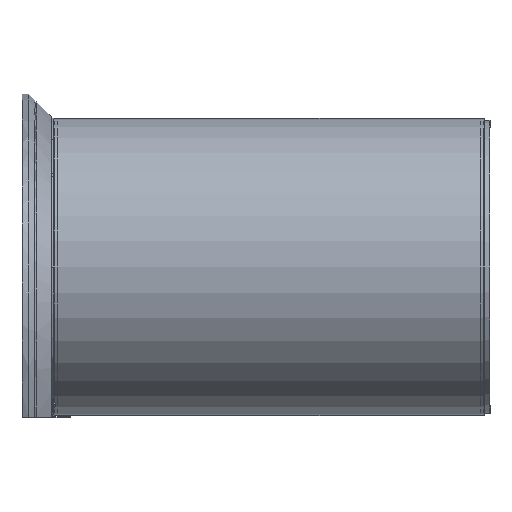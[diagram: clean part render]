
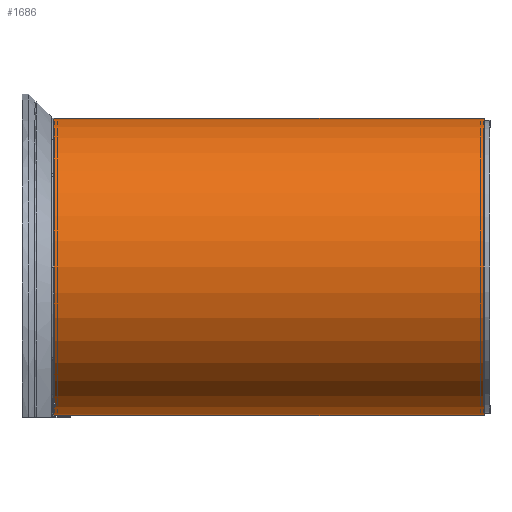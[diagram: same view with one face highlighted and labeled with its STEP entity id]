
A CAD part, left-side view. The second image highlights one B-rep face of the part: STEP entity #1686.
In plain terms, the highlighted cylindrical face has radius 230 mm (diameter 460 mm), a partial arc.
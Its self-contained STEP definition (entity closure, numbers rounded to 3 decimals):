
#860 = DIRECTION ( 'NONE',  ( 0., 1., 0. ) ) ;
#901 = VECTOR ( 'NONE', #11937, 1000. ) ;
#1157 = ORIENTED_EDGE ( 'NONE', *, *, #3263, .F. ) ;
#1286 = ORIENTED_EDGE ( 'NONE', *, *, #1404, .T. ) ;
#1317 = VERTEX_POINT ( 'NONE', #4968 ) ;
#1404 = EDGE_CURVE ( 'NONE', #1317, #5517, #10672, .T. ) ;
#1417 = DIRECTION ( 'NONE',  ( 0., 0., -1. ) ) ;
#1686 = ADVANCED_FACE ( 'NONE', ( #8264 ), #5349, .T. ) ;
#2769 = CARTESIAN_POINT ( 'NONE',  ( 2., 0., -230. ) ) ;
#2781 = CIRCLE ( 'NONE', #2977, 230. ) ;
#2809 = VERTEX_POINT ( 'NONE', #11838 ) ;
#2977 = AXIS2_PLACEMENT_3D ( 'NONE', #9637, #860, #9824 ) ;
#3107 = DIRECTION ( 'NONE',  ( 0., -1., 0. ) ) ;
#3263 = EDGE_CURVE ( 'NONE', #2809, #3760, #11872, .T. ) ;
#3341 = AXIS2_PLACEMENT_3D ( 'NONE', #7241, #6227, #1417 ) ;
#3760 = VERTEX_POINT ( 'NONE', #2769 ) ;
#4493 = EDGE_LOOP ( 'NONE', ( #8039, #1157, #11966, #1286 ) ) ;
#4959 = CARTESIAN_POINT ( 'NONE',  ( 2., 665., -230. ) ) ;
#4968 = CARTESIAN_POINT ( 'NONE',  ( 2., 665., 230. ) ) ;
#5349 = CYLINDRICAL_SURFACE ( 'NONE', #3341, 230. ) ;
#5517 = VERTEX_POINT ( 'NONE', #8904 ) ;
#5900 = DIRECTION ( 'NONE',  ( 0., 0., 1. ) ) ;
#6151 = CARTESIAN_POINT ( 'NONE',  ( 2., 0., 0. ) ) ;
#6227 = DIRECTION ( 'NONE',  ( 0., -1., 0. ) ) ;
#6927 = EDGE_CURVE ( 'NONE', #1317, #2809, #2781, .T. ) ;
#6931 = CIRCLE ( 'NONE', #11835, 230. ) ;
#7241 = CARTESIAN_POINT ( 'NONE',  ( 2., 665., 0. ) ) ;
#7439 = VECTOR ( 'NONE', #3107, 1000. ) ;
#7849 = CARTESIAN_POINT ( 'NONE',  ( 2., 665., 230. ) ) ;
#8039 = ORIENTED_EDGE ( 'NONE', *, *, #8706, .T. ) ;
#8264 = FACE_OUTER_BOUND ( 'NONE', #4493, .T. ) ;
#8706 = EDGE_CURVE ( 'NONE', #5517, #3760, #6931, .T. ) ;
#8904 = CARTESIAN_POINT ( 'NONE',  ( 2., 0., 230. ) ) ;
#9637 = CARTESIAN_POINT ( 'NONE',  ( 2., 665., 0. ) ) ;
#9824 = DIRECTION ( 'NONE',  ( 0., 0., 1. ) ) ;
#10672 = LINE ( 'NONE', #7849, #7439 ) ;
#11835 = AXIS2_PLACEMENT_3D ( 'NONE', #6151, #11896, #5900 ) ;
#11838 = CARTESIAN_POINT ( 'NONE',  ( 2., 665., -230. ) ) ;
#11872 = LINE ( 'NONE', #4959, #901 ) ;
#11896 = DIRECTION ( 'NONE',  ( 0., 1., 0. ) ) ;
#11937 = DIRECTION ( 'NONE',  ( 0., -1., 0. ) ) ;
#11966 = ORIENTED_EDGE ( 'NONE', *, *, #6927, .F. ) ;
